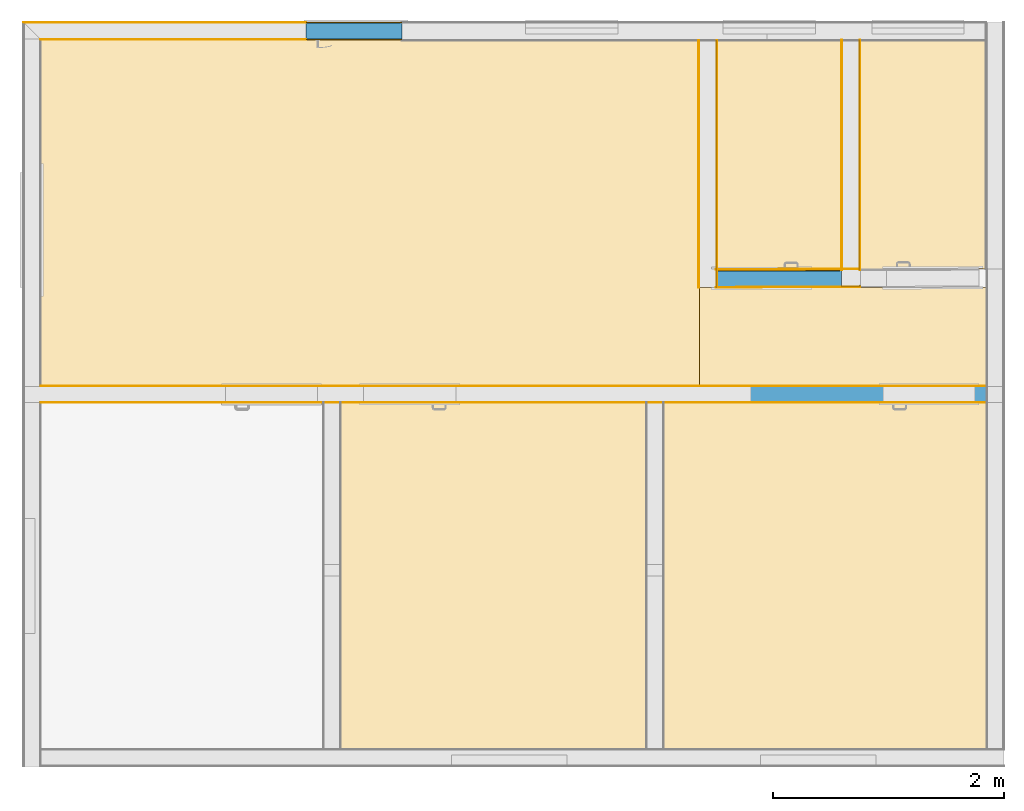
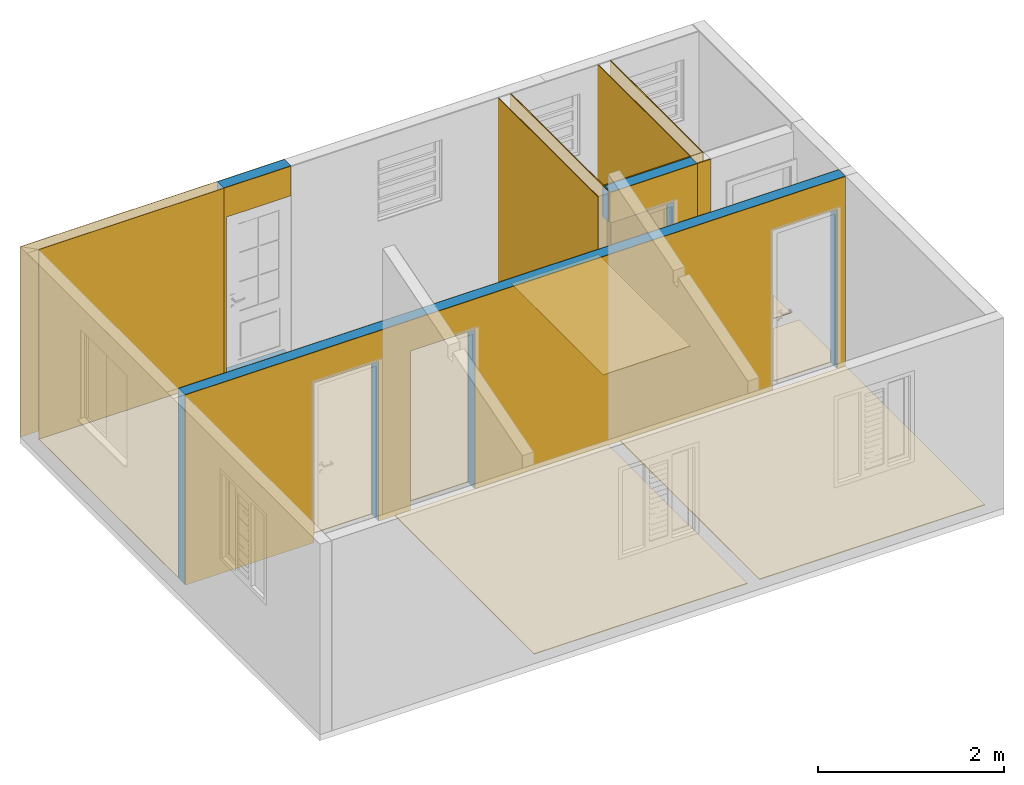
# One storey, part 8 of 11: 26 coverings, 3 building element parts, 5 openings, 7 elements without a shape of their own.
"""IFC2X3 building model written with IfcOpenShell, lengths in millimetres."""

from ifc_helpers import new_model, entity, si_unit, converted_unit, derived_unit, money_unit, direction, frame, origin_with_axes, origin_2d_with_axis, place, context, subcontext, project, spatial, polyline, rectangle, outline, extrude, material, type_object, element, aggregate, save


model = new_model("IFC2X3")

# Units and contexts
model_context = context("Model", 3, precision=0.01, world=origin_with_axes(), true_north=direction((0.0, 1.0)))
body_context = subcontext(model_context, "Body", "Model", "MODEL_VIEW")
ifc_project = project(units=[si_unit("LENGTHUNIT", "METRE", prefix="MILLI"), si_unit("AREAUNIT", "SQUARE_METRE"), si_unit("VOLUMEUNIT", "CUBIC_METRE"), converted_unit("PLANEANGLEUNIT", "DEGREE", entity("IfcPlaneAngleMeasure", 0.0174532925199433), si_unit("PLANEANGLEUNIT", "RADIAN"), dimensions=[0, 0, 0, 0, 0, 0, 0]), money_unit("USD"), converted_unit("TIMEUNIT", "Year", entity("IfcTimeMeasure", 31557600.0), si_unit("TIMEUNIT", "SECOND"), dimensions=[0, 0, 1, 0, 0, 0, 0]), si_unit("MASSUNIT", "GRAM", prefix="KILO"), si_unit("THERMODYNAMICTEMPERATUREUNIT", "DEGREE_CELSIUS"), si_unit("LUMINOUSINTENSITYUNIT", "LUMEN"), si_unit("ENERGYUNIT", "JOULE", prefix="MEGA"), derived_unit("THERMALCONDUCTANCEUNIT", [(si_unit("POWERUNIT", "WATT"), 1), (si_unit("LENGTHUNIT", "METRE"), -1), (si_unit("THERMODYNAMICTEMPERATUREUNIT", "KELVIN"), -1)]), derived_unit("SPECIFICHEATCAPACITYUNIT", [(si_unit("ENERGYUNIT", "JOULE"), 1), (si_unit("MASSUNIT", "GRAM", prefix="KILO"), -1), (si_unit("THERMODYNAMICTEMPERATUREUNIT", "KELVIN"), -1)]), derived_unit("MASSDENSITYUNIT", [(si_unit("MASSUNIT", "GRAM", prefix="KILO"), 1), (si_unit("VOLUMEUNIT", "CUBIC_METRE"), -1)])], contexts=[model_context])

# Site, building, storey
site_placement = place(None, origin_with_axes())
site = spatial("IfcSite", under=ifc_project, at=site_placement, Name="Local", CompositionType="ELEMENT")
building_placement = place(site_placement, origin_with_axes())
building = spatial("IfcBuilding", under=site, at=building_placement, Name="Construção", CompositionType="ELEMENT")
storey_placement = place(building_placement, origin_with_axes())
storey = spatial("IfcBuildingStorey", under=building, at=storey_placement, Name="Pavimento Térreo", CompositionType="ELEMENT", Elevation=0.0)

# Coverings
ifc_material_1 = material(Name="Cerâmica")
covering_type = type_object("IfcCoveringType", Name="Cerâmica 10", PredefinedType="FLOORING")
covering_1_placement = place(storey_placement, frame((5859.999980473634, 4150.000000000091, 0.0), z_axis=(0.0, 0.0, 1.0), x_axis=(1.0, 0.0, 0.0)))
element("IfcCovering", 1, at=covering_1_placement, inside=storey, type_object=covering_type, material=ifc_material_1, Name="P05", PredefinedType="FLOORING", context=body_context, shape_type="SweptSolid", body=[
    extrude(outline(polyline([(0.0, 0.0), (0.0, -855.0000000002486), (2495.000005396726, -855.0000000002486), (2495.000030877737, 0.0), (0.0, 0.0)])), origin_with_axes(), (0.0, 0.0, 1.0), 10.0),
])
covering_2_placement = place(storey_placement, frame((6009.623460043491, 6289.999999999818, 0.0), z_axis=(0.0, 0.0, 1.0), x_axis=(1.0, 0.0, 0.0)))
element("IfcCovering", 2, at=covering_2_placement, inside=storey, type_object=covering_type, material=ifc_material_1, Name="P07", PredefinedType="FLOORING", context=body_context, shape_type="SweptSolid", body=[
    extrude(outline(polyline([(0.0, 0.0), (0.0, -1980.000000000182), (1085.376534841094, -1980.000000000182), (1085.376593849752, 0.0), (0.0, 0.0)])), origin_with_axes(), (0.0, 0.0, 1.0), 10.0),
])
covering_3_placement = place(storey_placement, frame((7250.0, 6289.999999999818, 0.0), z_axis=(0.0, 0.0, 1.0), x_axis=(1.0, 0.0, 0.0)))
element("IfcCovering", 3, at=covering_3_placement, inside=storey, type_object=covering_type, material=ifc_material_1, Name="P06", PredefinedType="FLOORING", context=body_context, shape_type="SweptSolid", body=[
    extrude(outline(polyline([(0.0, 0.0), (0.0, -1980.000000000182), (1090.0, -1980.000000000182), (1090.000059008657, 0.0), (0.0, 0.0)])), origin_with_axes(), (0.0, 0.0, 1.0), 10.0),
])
covering_4_placement = place(storey_placement, frame((5550.000000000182, 3150.000011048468, 0.0), z_axis=(0.0, 0.0, 1.0), x_axis=(1.0, 0.0, 0.0)))
element("IfcCovering", 4, at=covering_4_placement, inside=storey, type_object=covering_type, material=ifc_material_1, Name="P03", PredefinedType="FLOORING", context=body_context, shape_type="SweptSolid", body=[
    extrude(outline(polyline([(0.0, 0.0), (0.0, -3000.000011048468), (2799.999945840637, -3000.000011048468), (2800.000035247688, 0.0), (0.0, 0.0)])), origin_with_axes(), (0.0, 0.0, 1.0), 10.0),
])
covering_5_placement = place(storey_placement, frame((150.0000000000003, 6300.000000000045, 0.0), z_axis=(0.0, 0.0, 1.0), x_axis=(1.0, 0.0, 0.0)))
element("IfcCovering", 5, at=covering_5_placement, inside=storey, type_object=covering_type, material=ifc_material_1, Name="P04", PredefinedType="FLOORING", context=body_context, shape_type="SweptSolid", body=[
    extrude(outline(polyline([(0.0, 0.0), (0.0, -3000.000011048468), (5709.999955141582, -3000.000011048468), (5710.000044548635, 0.0), (0.0, 0.0)])), origin_with_axes(), (0.0, 0.0, 1.0), 10.0),
])
covering_6_placement = place(storey_placement, frame((2750.0, 3150.000011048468, 0.0), z_axis=(0.0, 0.0, 1.0), x_axis=(1.0, 0.0, 0.0)))
element("IfcCovering", 6, at=covering_6_placement, inside=storey, type_object=covering_type, material=ifc_material_1, Name="P02", PredefinedType="FLOORING", context=body_context, shape_type="SweptSolid", body=[
    extrude(outline(polyline([(0.0, 0.0), (0.0, -3000.000011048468), (2649.999934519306, -3000.000011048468), (2650.000023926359, 0.0), (0.0, 0.0)])), origin_with_axes(), (0.0, 0.0, 1.0), 10.0),
])

# Wall, coverings
wall_type_1 = type_object("IfcWallType", Name="Alvenaria 140, Azulejo + Azulejo 165", PredefinedType="NOTDEFINED")
wall_1_placement = place(storey_placement, frame((7090.0, 6299.999999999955, 0.0), z_axis=(0.0, 0.0, 1.0), x_axis=(0.0, -1.0, 0.0)))
wall_1 = element("IfcWall", 7, at=wall_1_placement, inside=storey, type_object=wall_type_1, Name="Parede-07")
ifc_material_2 = material(Name="Azulejo DEF")
covering_7_placement = place(wall_1_placement, origin_with_axes())
covering_7 = element("IfcCovering", 8, at=covering_7_placement, material=ifc_material_2, Name="Azulejo DEF", PredefinedType="CLADDING", context=body_context, shape_type="SweptSolid", body=[
    extrude(outline(polyline([(0.0, 0.0), (2000.0, 0.0), (2000.0, 4.999999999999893), (0.0, 4.999999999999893), (0.0, 0.0)])), origin_with_axes(), (0.0, 0.0, 1.0), 2500.0),
])
ifc_material_3 = material(Name="Argamassa Colante DEF")
covering_8_placement = place(wall_1_placement, origin_with_axes())
covering_8 = element("IfcCovering", 9, at=covering_8_placement, material=ifc_material_3, Name="Argamassa Colante DEF", PredefinedType="CLADDING", context=body_context, shape_type="SweptSolid", body=[
    extrude(outline(polyline([(0.0, 4.999999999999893), (2000.0, 4.999999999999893), (2000.0, 9.999999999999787), (0.0, 9.999999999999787), (0.0, 4.999999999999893)])), origin_with_axes(), (0.0, 0.0, 1.0), 2500.0),
])
covering_9_placement = place(wall_1_placement, origin_with_axes())
covering_9 = element("IfcCovering", 10, at=covering_9_placement, material=ifc_material_3, Name="Argamassa Colante DEF", PredefinedType="CLADDING", context=body_context, shape_type="SweptSolid", body=[
    extrude(outline(polyline([(0.0, 150.0000000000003), (2000.0, 150.0000000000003), (2000.0, 160.0000000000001), (0.0, 160.0000000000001), (0.0, 150.0000000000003)])), origin_with_axes(), (0.0, 0.0, 1.0), 2500.0),
])
covering_10_placement = place(wall_1_placement, origin_with_axes())
covering_10 = element("IfcCovering", 11, at=covering_10_placement, material=ifc_material_2, Name="Azulejo DEF", PredefinedType="CLADDING", context=body_context, shape_type="SweptSolid", body=[
    extrude(outline(polyline([(0.0, 160.0000000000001), (2000.0, 160.0000000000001), (2000.0, 165.0), (0.0, 165.0), (0.0, 160.0000000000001)])), origin_with_axes(), (0.0, 0.0, 1.0), 2500.0),
])
aggregate(wall_1, [covering_7, covering_8, covering_9, covering_10])

# Wall, openings, coverings
wall_type_2 = type_object("IfcWallType", Name="Alvenaria 140, Rebocada 2 Faces 150", PredefinedType="NOTDEFINED")
wall_2_placement = place(storey_placement, frame((8500.0, 3299.999999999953, 0.0), z_axis=(0.0, 0.0, 1.0), x_axis=(-1.0, 0.0, 0.0)))
wall_2 = element("IfcWall", 12, at=wall_2_placement, inside=storey, type_object=wall_type_2, Name="Parede-05")
opening_1_placement = place(wall_2_placement, frame((650.0000000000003, 0.0, 0.0), z_axis=(0.0, 0.0, 1.0), x_axis=(1.0, 0.0, 0.0)))
element("IfcOpeningElement", 13, at=opening_1_placement, cuts=wall_2, Name="P04", context=body_context, shape_type="SweptSolid", body=[
    extrude(rectangle(XDim=800.0000000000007, YDim=2100.0, at=origin_2d_with_axis()), frame((0.0, 149.9999999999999, 1050.0), z_axis=(0.0, 1.0, 0.0), x_axis=(-1.0, 0.0, 0.0)), (0.0, 0.0, -1.0), 450.0000000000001),
    extrude(rectangle(XDim=870.000000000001, YDim=2135.0, at=origin_2d_with_axis()), frame((0.0, 150.0000000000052, 1067.5), z_axis=(0.0, 1.0, 0.0), x_axis=(-1.0, 0.0, 0.0)), (0.0, 0.0, 1.0), 150.0),
    extrude(rectangle(XDim=870.000000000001, YDim=2135.0, at=origin_2d_with_axis()), frame((0.0, 0.0, 1067.5), z_axis=(0.0, -1.0, 0.0), x_axis=(-1.0, 0.0, 0.0)), (0.0, 0.0, 1.0), 150.0),
])
opening_2_placement = place(wall_2_placement, frame((5151.361852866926, 0.0, 0.0), z_axis=(0.0, 0.0, 1.0), x_axis=(1.0, 0.0, 0.0)))
element("IfcOpeningElement", 14, at=opening_2_placement, cuts=wall_2, Name="P05", context=body_context, shape_type="SweptSolid", body=[
    extrude(rectangle(XDim=799.9999999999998, YDim=2100.0, at=origin_2d_with_axis()), frame((0.0, -149.9999999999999, 1050.0), z_axis=(0.0, 1.0, 0.0), x_axis=(1.0, 0.0, 0.0)), (0.0, 0.0, 1.0), 450.0000000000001),
    extrude(rectangle(XDim=870.0000000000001, YDim=2135.0, at=origin_2d_with_axis()), frame((0.0, 0.0, 1067.5), z_axis=(0.0, 1.0, 0.0), x_axis=(1.0, 0.0, 0.0)), (0.0, 0.0, -1.0), 150.0),
    extrude(rectangle(XDim=870.0000000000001, YDim=2135.0, at=origin_2d_with_axis()), frame((0.0, 150.0000000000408, 1067.5), z_axis=(0.0, -1.0, 0.0), x_axis=(1.0, 0.0, 0.0)), (0.0, 0.0, -1.0), 150.0),
])
opening_3_placement = place(wall_2_placement, frame((6349.999999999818, 0.0, 0.0), z_axis=(0.0, 0.0, 1.0), x_axis=(1.0, 0.0, 0.0)))
element("IfcOpeningElement", 15, at=opening_3_placement, cuts=wall_2, Name="P03", context=body_context, shape_type="SweptSolid", body=[
    extrude(rectangle(XDim=799.9999999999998, YDim=2100.0, at=origin_2d_with_axis()), frame((0.0, -149.9999999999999, 1050.0), z_axis=(0.0, -1.0, 0.0), x_axis=(-1.0, 0.0, 0.0)), (0.0, 0.0, -1.0), 450.0000000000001),
    extrude(rectangle(XDim=870.0000000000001, YDim=2135.0, at=origin_2d_with_axis()), frame((0.0, 0.0, 1067.5), z_axis=(0.0, -1.0, 0.0), x_axis=(-1.0, 0.0, 0.0)), (0.0, 0.0, 1.0), 150.0),
    extrude(rectangle(XDim=870.0000000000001, YDim=2135.0, at=origin_2d_with_axis()), frame((0.0, 150.0000000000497, 1067.5), z_axis=(0.0, 1.0, 0.0), x_axis=(-1.0, 0.0, 0.0)), (0.0, 0.0, 1.0), 150.0),
])
ifc_material_4 = material(Name="Reboco DEF")
covering_11_placement = place(wall_2_placement, origin_with_axes())
covering_11 = element("IfcCovering", 16, at=covering_11_placement, material=ifc_material_4, Name="Reboco DEF", PredefinedType="CLADDING", context=body_context, shape_type="SweptSolid", body=[
    extrude(outline(polyline([(150.0000000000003, 0.0), (8350.0, 0.0), (8350.0, 4.999999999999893), (150.0000000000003, 4.999999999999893), (150.0000000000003, 0.0)])), origin_with_axes(), (0.0, 0.0, 1.0), 2500.0),
])
covering_12_placement = place(wall_2_placement, origin_with_axes())
covering_12 = element("IfcCovering", 17, at=covering_12_placement, material=ifc_material_4, Name="Reboco DEF", PredefinedType="CLADDING", context=body_context, shape_type="SweptSolid", body=[
    extrude(outline(polyline([(149.9999999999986, 145.0), (8349.999999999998, 145.0), (8349.999999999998, 149.9999999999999), (149.9999999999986, 149.9999999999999), (149.9999999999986, 145.0)])), origin_with_axes(), (0.0, 0.0, 1.0), 2500.0),
])

# Wall, covering
wall_3_placement = place(storey_placement, frame((2450.000000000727, 6450.000000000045, 0.0), z_axis=(0.0, 0.0, 1.0), x_axis=(-1.0, 0.0, 0.0)))
wall_3 = element("IfcWall", 18, at=wall_3_placement, inside=storey, type_object=wall_type_2, Name="Parede-04 - Trecho 1")
covering_13_placement = place(wall_3_placement, origin_with_axes())
covering_13 = element("IfcCovering", 19, at=covering_13_placement, material=ifc_material_4, Name="Reboco DEF", PredefinedType="CLADDING", context=body_context, shape_type="SweptSolid", body=[
    extrude(outline(polyline([(0.0, 0.0), (2450.000000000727, 0.0), (2445.000000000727, 4.999999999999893), (0.0, 4.999999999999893), (0.0, 0.0)])), origin_with_axes(), (0.0, 0.0, 1.0), 2500.0),
])

# Wall, opening, covering
wall_4_placement = place(storey_placement, frame((3281.395273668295, 6450.000000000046, 0.0), z_axis=(0.0, 0.0, 1.0), x_axis=(-1.0, 0.0, 0.0)))
wall_4 = element("IfcWall", 20, at=wall_4_placement, inside=storey, type_object=wall_type_2, Name="Parede-04 - Trecho 2")
opening_4_placement = place(wall_4_placement, frame((399.9999999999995, 0.0, 10.0), z_axis=(0.0, 0.0, 1.0), x_axis=(1.0, 0.0, 0.0)))
element("IfcOpeningElement", 21, at=opening_4_placement, cuts=wall_4, Name="P01", context=body_context, shape_type="SweptSolid", body=[
    extrude(rectangle(XDim=799.9999999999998, YDim=2100.0, at=origin_2d_with_axis()), frame((0.0, 150.0000000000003, 1050.0), z_axis=(0.0, 1.0, 0.0), x_axis=(-1.0, 0.0, 0.0)), (0.0, 0.0, -1.0), 450.0000000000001),
    extrude(rectangle(XDim=900.0000000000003, YDim=2150.0, at=origin_2d_with_axis()), frame((0.0, 0.0, 1075.0), z_axis=(0.0, -1.0, 0.0), x_axis=(-1.0, 0.0, 0.0)), (0.0, 0.0, 1.0), 150.0),
])
covering_14_placement = place(wall_4_placement, origin_with_axes())
covering_14 = element("IfcCovering", 22, at=covering_14_placement, material=ifc_material_4, Name="Reboco DEF", PredefinedType="CLADDING", context=body_context, shape_type="SweptSolid", body=[
    extrude(outline(polyline([(0.0, 0.0), (831.3952736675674, 0.0), (831.3952736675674, 4.999999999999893), (0.0, 4.999999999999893), (0.0, 0.0)])), origin_with_axes(), (0.0, 0.0, 1.0), 2500.0),
])

# Covering
covering_15_placement = place(wall_3_placement, origin_with_axes())
covering_15 = element("IfcCovering", 23, at=covering_15_placement, material=ifc_material_4, Name="Reboco DEF", PredefinedType="CLADDING", context=body_context, shape_type="SweptSolid", body=[
    extrude(outline(polyline([(0.0, 145.0000000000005), (2305.000000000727, 145.0000000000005), (2300.000000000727, 150.0000000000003), (0.0, 150.0000000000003), (0.0, 145.0000000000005)])), origin_with_axes(), (0.0, 0.0, 1.0), 2500.0),
])

aggregate(wall_3, [covering_13, covering_15])

covering_16_placement = place(wall_4_placement, origin_with_axes())
covering_16 = element("IfcCovering", 24, at=covering_16_placement, material=ifc_material_4, Name="Reboco DEF", PredefinedType="CLADDING", context=body_context, shape_type="SweptSolid", body=[
    extrude(outline(polyline([(0.0, 145.0000000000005), (831.3952736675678, 145.0000000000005), (831.3952736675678, 150.0000000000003), (0.0, 150.0000000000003), (0.0, 145.0000000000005)])), origin_with_axes(), (0.0, 0.0, 1.0), 2500.0),
])

# Wall, opening, coverings
wall_type_3 = type_object("IfcWallType", Name="Alvenaria 140, Rebocada + Azulejo 160", PredefinedType="NOTDEFINED")
wall_5_placement = place(storey_placement, frame((5999.999999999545, 4150.000000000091, 0.0), z_axis=(0.0, 0.0, 1.0), x_axis=(0.9999961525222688, 0.002773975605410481, 0.0)))
wall_5 = element("IfcWall", 25, at=wall_5_placement, inside=storey, type_object=wall_type_3, Name="Parede-08 - Trecho 1")
opening_5_placement = place(wall_5_placement, frame((400.0000000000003, 0.0, 0.0), z_axis=(0.0, 0.0, 1.0), x_axis=(1.0, 0.0, 0.0)))
element("IfcOpeningElement", 26, at=opening_5_placement, cuts=wall_5, Name="P06", context=body_context, shape_type="SweptSolid", body=[
    extrude(rectangle(XDim=799.9999999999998, YDim=2100.0, at=origin_2d_with_axis()), frame((0.0, 160.0000000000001, 1050.0), z_axis=(0.0, 1.0, 0.0), x_axis=(-1.0, 0.0, 0.0)), (0.0, 0.0, -1.0), 480.0000000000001),
    extrude(rectangle(XDim=869.9999999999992, YDim=2135.0, at=origin_2d_with_axis()), frame((0.0, 160.0000000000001, 1067.5), z_axis=(0.0, 1.0, 0.0), x_axis=(-1.0, 0.0, 0.0)), (0.0, 0.0, 1.0), 160.0),
    extrude(rectangle(XDim=870.0000000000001, YDim=2135.0, at=origin_2d_with_axis()), frame((0.0, 0.0, 1067.5), z_axis=(0.0, -1.0, 0.0), x_axis=(-1.0, 0.0, 0.0)), (0.0, 0.0, 1.0), 160.0),
])
covering_17_placement = place(wall_5_placement, origin_with_axes())
covering_17 = element("IfcCovering", 27, at=covering_17_placement, material=ifc_material_4, Name="Reboco DEF", PredefinedType="CLADDING", context=body_context, shape_type="SweptSolid", body=[
    extrude(outline(polyline([(0.0, 0.0), (1090.004193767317, 0.0), (1090.004193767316, 4.999999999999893), (0.0, 4.999999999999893), (0.0, 0.0)])), origin_with_axes(), (0.0, 0.0, 1.0), 2500.0),
])
covering_18_placement = place(wall_5_placement, origin_with_axes())
covering_18 = element("IfcCovering", 28, at=covering_18_placement, material=ifc_material_3, Name="Argamassa Colante DEF", PredefinedType="CLADDING", context=body_context, shape_type="SweptSolid", body=[
    extrude(outline(polyline([(0.0, 145.0000000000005), (1090.004193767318, 145.0000000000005), (1090.004193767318, 155.0000000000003), (0.0, 155.0000000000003), (0.0, 145.0000000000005)])), origin_with_axes(), (0.0, 0.0, 1.0), 2500.0),
])
covering_19_placement = place(wall_5_placement, origin_with_axes())
covering_19 = element("IfcCovering", 29, at=covering_19_placement, material=ifc_material_2, Name="Azulejo DEF", PredefinedType="CLADDING", context=body_context, shape_type="SweptSolid", body=[
    extrude(outline(polyline([(0.0, 155.0000000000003), (1090.004193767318, 155.0000000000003), (1090.004193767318, 159.9999999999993), (0.0, 160.0000000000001), (0.0, 155.0000000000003)])), origin_with_axes(), (0.0, 0.0, 1.0), 2500.0),
])

# Wall, coverings
wall_type_4 = type_object("IfcWallType", Name="Alvenaria 140, Azulejo + Rebocada 160", PredefinedType="NOTDEFINED")
wall_6_placement = place(storey_placement, frame((7090.0, 4153.023645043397, 0.0), z_axis=(0.0, 0.0, 1.0), x_axis=(0.9999961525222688, 0.002773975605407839, 0.0)))
wall_6 = element("IfcWall", 30, at=wall_6_placement, inside=storey, type_object=wall_type_4, Name="Parede-08 - Trecho 2")
covering_20_placement = place(wall_6_placement, origin_with_axes())
covering_20 = element("IfcCovering", 31, at=covering_20_placement, material=ifc_material_2, Name="Azulejo DEF", PredefinedType="CLADDING", context=body_context, shape_type="SweptSolid", body=[
    extrude(outline(polyline([(0.0, 0.0), (165.4444726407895, 0.0), (165.4444726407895, 4.999999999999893), (0.0, 4.999999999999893), (0.0, 0.0)])), origin_with_axes(), (0.0, 0.0, 1.0), 2500.0),
])
covering_21_placement = place(wall_6_placement, origin_with_axes())
covering_21 = element("IfcCovering", 32, at=covering_21_placement, material=ifc_material_3, Name="Argamassa Colante DEF", PredefinedType="CLADDING", context=body_context, shape_type="SweptSolid", body=[
    extrude(outline(polyline([(0.0, 4.999999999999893), (165.4444726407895, 4.999999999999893), (165.4444726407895, 15.00000000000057), (0.0, 15.00000000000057), (0.0, 4.999999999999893)])), origin_with_axes(), (0.0, 0.0, 1.0), 2500.0),
])
covering_22_placement = place(wall_6_placement, origin_with_axes())
covering_22 = element("IfcCovering", 33, at=covering_22_placement, material=ifc_material_4, Name="Reboco DEF", PredefinedType="CLADDING", context=body_context, shape_type="SweptSolid", body=[
    extrude(outline(polyline([(0.0, 155.0000000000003), (165.4444726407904, 155.0000000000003), (165.4444726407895, 160.0000000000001), (0.0, 160.0000000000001), (0.0, 155.0000000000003)])), origin_with_axes(), (0.0, 0.0, 1.0), 2500.0),
])
aggregate(wall_6, [covering_20, covering_21, covering_22])

wall_7_placement = place(storey_placement, frame((5849.622577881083, 6294.999508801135, 0.0), z_axis=(0.0, 0.0, 1.0), x_axis=(0.0001759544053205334, -0.9999999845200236, 0.0)))
wall_7 = element("IfcWall", 34, at=wall_7_placement, inside=storey, type_object=wall_type_1, Name="Parede-21")
covering_23_placement = place(wall_7_placement, origin_with_axes())
covering_23 = element("IfcCovering", 35, at=covering_23_placement, material=ifc_material_2, Name="Azulejo DEF", PredefinedType="CLADDING", context=body_context, shape_type="SweptSolid", body=[
    extrude(outline(polyline([(0.0, 0.0), (2144.999542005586, 0.0), (2144.999542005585, 5.000000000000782), (0.0, 5.000000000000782), (0.0, 0.0)])), origin_with_axes(), (0.0, 0.0, 1.0), 2500.0),
])
covering_24_placement = place(wall_7_placement, origin_with_axes())
covering_24 = element("IfcCovering", 36, at=covering_24_placement, material=ifc_material_3, Name="Argamassa Colante DEF", PredefinedType="CLADDING", context=body_context, shape_type="SweptSolid", body=[
    extrude(outline(polyline([(0.0, 5.000000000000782), (2144.999542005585, 5.000000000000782), (2144.999542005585, 9.999999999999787), (0.0, 9.999999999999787), (0.0, 5.000000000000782)])), origin_with_axes(), (0.0, 0.0, 1.0), 2500.0),
])
covering_25_placement = place(wall_7_placement, origin_with_axes())
covering_25 = element("IfcCovering", 37, at=covering_25_placement, material=ifc_material_3, Name="Argamassa Colante DEF", PredefinedType="CLADDING", context=body_context, shape_type="SweptSolid", body=[
    extrude(outline(polyline([(0.0, 150.0000000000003), (2144.999542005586, 150.0000000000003), (2144.999542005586, 160.0000000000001), (0.0, 160.0000000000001), (0.0, 150.0000000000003)])), origin_with_axes(), (0.0, 0.0, 1.0), 2500.0),
])
covering_26_placement = place(wall_7_placement, origin_with_axes())
covering_26 = element("IfcCovering", 38, at=covering_26_placement, material=ifc_material_2, Name="Azulejo DEF", PredefinedType="CLADDING", context=body_context, shape_type="SweptSolid", body=[
    extrude(outline(polyline([(0.0, 160.0000000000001), (2144.999542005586, 160.0000000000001), (2144.999542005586, 165.0), (0.0, 165.0), (0.0, 160.0000000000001)])), origin_with_axes(), (0.0, 0.0, 1.0), 2500.0),
])
aggregate(wall_7, [covering_23, covering_24, covering_25, covering_26])

# Building element part
ifc_material_5 = material(Name="Bloco de Concreto - Estrutural DEF")
building_element_part_1_placement = place(wall_2_placement, origin_with_axes())
building_element_part_1 = element("IfcBuildingElementPart", 39, at=building_element_part_1_placement, material=ifc_material_5, Name="Bloco de Concreto - Estrutural DEF", context=body_context, shape_type="SweptSolid", body=[
    extrude(outline(polyline([(150.0000000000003, 4.999999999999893), (8350.0, 4.999999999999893), (8349.999999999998, 145.0), (149.9999999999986, 145.0), (150.0000000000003, 4.999999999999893)])), origin_with_axes(), (0.0, 0.0, 1.0), 2500.0),
])

aggregate(wall_2, [covering_11, building_element_part_1, covering_12])

building_element_part_2_placement = place(wall_4_placement, origin_with_axes())
building_element_part_2 = element("IfcBuildingElementPart", 40, at=building_element_part_2_placement, material=ifc_material_5, Name="Bloco de Concreto - Estrutural DEF", context=body_context, shape_type="SweptSolid", body=[
    extrude(outline(polyline([(0.0, 4.999999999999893), (831.3952736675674, 4.999999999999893), (831.3952736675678, 145.0000000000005), (0.0, 145.0000000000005), (0.0, 4.999999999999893)])), origin_with_axes(), (0.0, 0.0, 1.0), 2500.0),
])

aggregate(wall_4, [covering_14, building_element_part_2, covering_16])

building_element_part_3_placement = place(wall_5_placement, origin_with_axes())
building_element_part_3 = element("IfcBuildingElementPart", 41, at=building_element_part_3_placement, material=ifc_material_5, Name="Bloco de Concreto - Estrutural DEF", context=body_context, shape_type="SweptSolid", body=[
    extrude(outline(polyline([(0.0, 4.999999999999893), (1090.004193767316, 4.999999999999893), (1090.004193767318, 145.0000000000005), (0.0, 145.0000000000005), (0.0, 4.999999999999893)])), origin_with_axes(), (0.0, 0.0, 1.0), 2500.0),
])

aggregate(wall_5, [covering_17, building_element_part_3, covering_18, covering_19])

save(model, "model.ifc")
